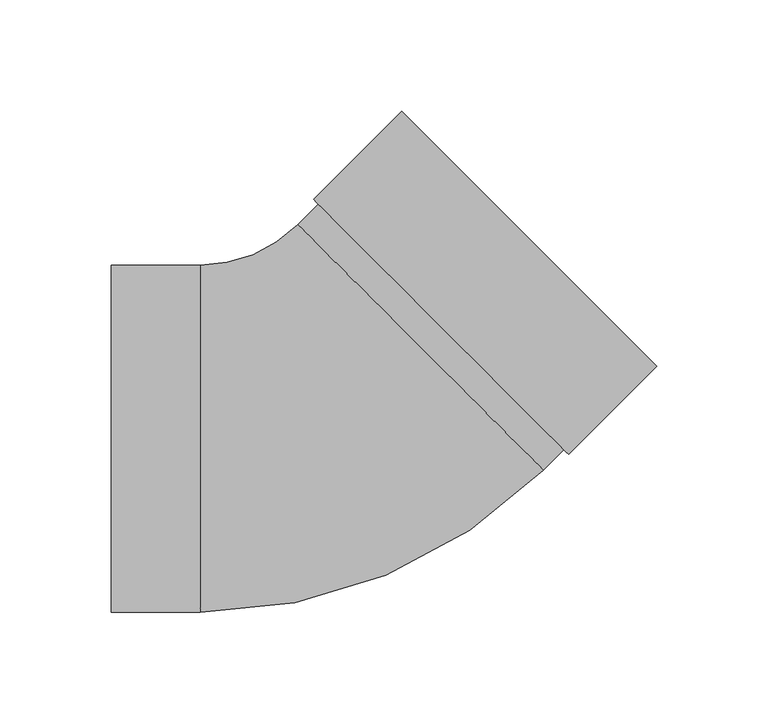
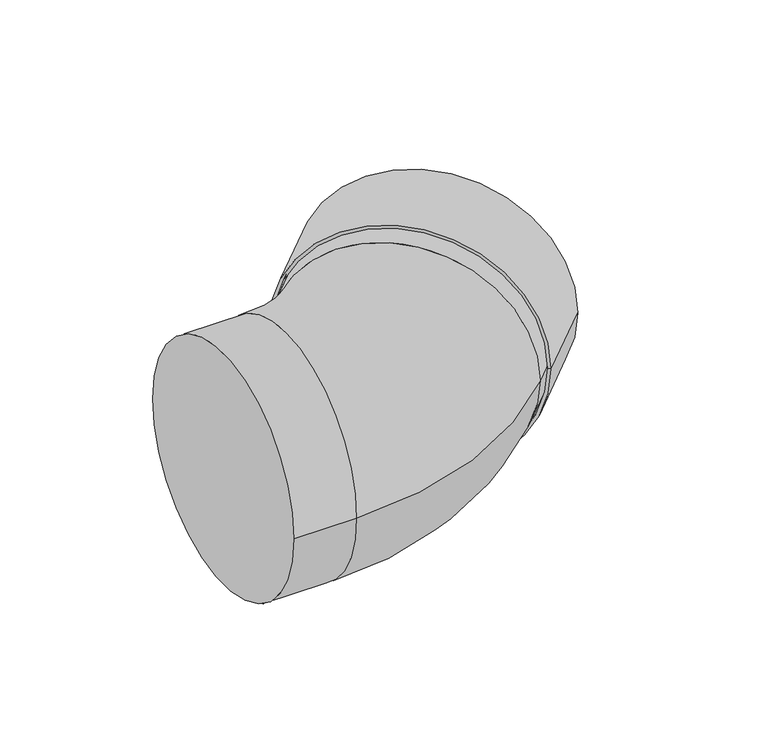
"""IFC4 building model written with IfcOpenShell, lengths in millimetres: duct fitting geometry, NLRS_57_DUF_UN_bend EPS_M&G : ø125 - ø200."""

from ifc_helpers import new_model, si_unit, point, frame, origin, place, context, project, spatial, polyline, circle_curve, ellipse_curve, trimmed, source, transform, mapped, element, save
from ifc_brep_helpers import plane_surface, cylinder_surface, revolved_surface, advanced_brep


def duct_fitting_a3314429(model_context):
    return source(origin(), model_context, "Body", "AdvancedBrep", [
        advanced_brep(
        [(107.4802307, -7.0710678, 0.0), (-7.0710678, 107.4802307, 0.0), (32.5269119, 147.0782105, 0.0), (147.0782105, 32.5269119, 0.0), (106.0660172, -5.6568542, 0.0), (-5.6568542, 106.0660172, 0.0), (125.1579003, 13.4350288, 0.0), (13.4350288, 125.1579003, 0.0), (123.7436867, 14.8492424, 0.0), (14.8492424, 123.7436867, 0.0), (126.5721138, 14.8492424, 0.0), (14.8492424, 126.5721138, 0.0), (16.263456, 125.1579003, 0.0), (125.1579003, 16.263456, 0.0), (145.6639969, 33.9411255, 0.0), (33.9411255, 145.6639969, 0.0)],
        [
            (0, 1, circle_curve(frame((50.2045815, 50.2045815, 0.0), z_axis=(0.7071067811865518, 0.7071067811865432, 0.0), x_axis=(-0.7071067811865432, 0.7071067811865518, 0.0)), 81.0)),
            (1, 2),
            (2, 3, circle_curve(frame((89.8025612, 89.8025612, 0.0), z_axis=(-0.7071067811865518, -0.7071067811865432, 0.0), x_axis=(-0.7071067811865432, 0.7071067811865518, 0.0)), 81.0)),
            (3, 0),
            (1, 0, circle_curve(frame((50.2045815, 50.2045815, 0.0), z_axis=(0.7071067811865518, 0.7071067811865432, 0.0), x_axis=(-0.7071067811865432, 0.7071067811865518, 0.0)), 81.0)),
            (3, 2, circle_curve(frame((89.8025612, 89.8025612, 0.0), z_axis=(-0.7071067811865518, -0.7071067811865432, 0.0), x_axis=(-0.7071067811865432, 0.7071067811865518, 0.0)), 81.0)),
            (4, 5, circle_curve(frame((50.2045815, 50.2045815, 0.0), z_axis=(0.7071067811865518, 0.7071067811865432, 0.0), x_axis=(-0.7071067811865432, 0.7071067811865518, 0.0)), 79.0)),
            (5, 1),
            (0, 4),
            (5, 4, circle_curve(frame((50.2045815, 50.2045815, 0.0), z_axis=(0.7071067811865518, 0.7071067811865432, 0.0), x_axis=(-0.7071067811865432, 0.7071067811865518, 0.0)), 79.0)),
            (6, 7, circle_curve(frame((69.2964646, 69.2964646, 0.0), z_axis=(0.7071067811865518, 0.7071067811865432, 0.0), x_axis=(-0.7071067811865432, 0.7071067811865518, 0.0)), 79.0)),
            (7, 5),
            (4, 6),
            (7, 6, circle_curve(frame((69.2964646, 69.2964646, 0.0), z_axis=(0.7071067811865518, 0.7071067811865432, 0.0), x_axis=(-0.7071067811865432, 0.7071067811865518, 0.0)), 79.0)),
            (8, 9, circle_curve(frame((69.2964646, 69.2964646, 0.0), z_axis=(0.7071067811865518, 0.7071067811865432, 0.0), x_axis=(-0.7071067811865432, 0.7071067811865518, 0.0)), 77.0)),
            (9, 7),
            (6, 8),
            (9, 8, circle_curve(frame((69.2964646, 69.2964646, 0.0), z_axis=(0.7071067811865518, 0.7071067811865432, 0.0), x_axis=(-0.7071067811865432, 0.7071067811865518, 0.0)), 77.0)),
            (10, 11, circle_curve(frame((70.7106781, 70.7106781, 0.0), z_axis=(0.7071067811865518, 0.7071067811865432, 0.0), x_axis=(-0.7071067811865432, 0.7071067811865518, 0.0)), 79.0)),
            (11, 12),
            (12, 13, circle_curve(frame((70.7106781, 70.7106781, 0.0), z_axis=(-0.7071067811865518, -0.7071067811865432, 0.0), x_axis=(-0.7071067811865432, 0.7071067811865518, 0.0)), 77.0)),
            (13, 10),
            (11, 10, circle_curve(frame((70.7106781, 70.7106781, 0.0), z_axis=(0.7071067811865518, 0.7071067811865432, 0.0), x_axis=(-0.7071067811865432, 0.7071067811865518, 0.0)), 79.0)),
            (13, 12, circle_curve(frame((70.7106781, 70.7106781, 0.0), z_axis=(-0.7071067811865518, -0.7071067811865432, 0.0), x_axis=(-0.7071067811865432, 0.7071067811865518, 0.0)), 77.0)),
            (14, 15, circle_curve(frame((89.8025612, 89.8025612, 0.0), z_axis=(0.7071067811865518, 0.7071067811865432, 0.0), x_axis=(-0.7071067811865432, 0.7071067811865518, 0.0)), 79.0)),
            (15, 11),
            (10, 14),
            (15, 14, circle_curve(frame((89.8025612, 89.8025612, 0.0), z_axis=(0.7071067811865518, 0.7071067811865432, 0.0), x_axis=(-0.7071067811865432, 0.7071067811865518, 0.0)), 79.0)),
            (2, 15),
            (14, 3),
            (12, 9),
            (8, 13),
        ],
        [
            cylinder_surface(frame((1466.8930176, 1466.8930176, 0.0), z_axis=(-0.7071067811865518, -0.7071067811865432, 0.0), x_axis=(-0.7071067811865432, 0.7071067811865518, 0.0)), 81.0),
            plane_surface(frame((50.2045815, 50.2045815, 0.0), z_axis=(-0.7071067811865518, -0.7071067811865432, 0.0), x_axis=(-0.7071067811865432, 0.7071067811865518, 0.0))),
            revolved_surface(polyline([(-5.6568542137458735, 106.06601721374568, 0.0), (13.43502888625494, 125.15790031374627, 0.0)]), (1466.8930176, 1466.8930176, 0.0), (-0.7071067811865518, -0.7071067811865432, 0.0)),
            plane_surface(frame((69.2964646, 69.2964646, 0.0), z_axis=(-0.7071067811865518, -0.7071067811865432, 0.0), x_axis=(-0.7071067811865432, 0.7071067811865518, 0.0))),
            plane_surface(frame((70.7106781, 70.7106781, 0.0), z_axis=(0.7071067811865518, 0.7071067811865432, 0.0), x_axis=(-0.7071067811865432, 0.7071067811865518, 0.0))),
            revolved_surface(polyline([(14.849242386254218, 126.57211381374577, 0.0), (33.94112548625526, 145.66399691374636, 0.0)]), (1466.8930176, 1466.8930176, 0.0), (-0.7071067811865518, -0.7071067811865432, 0.0)),
            plane_surface(frame((89.8025612, 89.8025612, 0.0), z_axis=(0.7071067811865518, 0.7071067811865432, 0.0), x_axis=(-0.7071067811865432, 0.7071067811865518, 0.0))),
            revolved_surface(polyline([(14.849242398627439, 123.74368670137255, 0.0), (16.263455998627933, 125.15790030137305, 0.0)]), (1466.8930176, 1466.8930176, 0.0), (-0.7071067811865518, -0.7071067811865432, 0.0)),
        ],
        [
            (0, [[1, 2, 3, 4]]),
            (0, [[5, -4, 6, -2]]),
            (1, [[7, 8, -1, 9]]),
            (1, [[10, -9, -5, -8]]),
            (2, [[11, 12, -7, 13]]),
            (2, [[14, -13, -10, -12]]),
            (3, [[15, 16, -11, 17]]),
            (3, [[18, -17, -14, -16]]),
            (4, [[19, 20, 21, 22]]),
            (4, [[23, -22, 24, -20]]),
            (5, [[25, 26, -19, 27]]),
            (5, [[28, -27, -23, -26]]),
            (6, [[-3, 29, -25, 30]]),
            (6, [[-6, -30, -28, -29]]),
            (7, [[-21, 31, -15, 32]]),
            (7, [[-24, -32, -18, -31]]),
        ],
    ),
        advanced_brep(
        [(-98.0, -78.0, 0.0), (-98.0, 78.0, 0.0), (-58.0, -78.0, 0.0), (-58.0, 78.0, 0.0), (-14.1421356, 96.1665222, 0.0), (96.1665222, -14.1421356, 0.0), (124.4507935, 14.1421356, 0.0), (14.1421356, 124.4507935, 0.0)],
        [
            (0, 1, circle_curve(frame((-98.0, 0.0, 0.0), z_axis=(-1.0, 0.0, 0.0), x_axis=(0.0, 1.0, 0.0)), 78.0)),
            (1, 0, circle_curve(frame((-98.0, 0.0, 0.0), z_axis=(-1.0, 0.0, 0.0), x_axis=(0.0, 1.0, 0.0)), 78.0)),
            (0, 2),
            (2, 3, circle_curve(frame((-58.0, 0.0, 0.0), z_axis=(-1.0, 0.0, 0.0), x_axis=(0.0, 1.0, 0.0)), 78.0)),
            (3, 1),
            (3, 2, circle_curve(frame((-58.0, 0.0, 0.0), z_axis=(-1.0, 0.0, 0.0), x_axis=(0.0, 1.0, 0.0)), 78.0)),
            (4, 3, circle_curve(frame((-58.0, 140.0243866, 0.0), z_axis=(0.0, 0.0, -1.0), x_axis=(0.0, -1.0, 0.0)), 62.0243866)),
            (2, 5, circle_curve(frame((-58.0, 140.0243866, 0.0), z_axis=(0.0, 0.0, 1.0), x_axis=(0.0, -1.0, 0.0)), 218.0243866)),
            (5, 4, circle_curve(frame((41.0121933, 41.0121933, 0.0), z_axis=(-0.7071067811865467, -0.7071067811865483, 0.0), x_axis=(-0.7071067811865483, 0.7071067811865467, 0.0)), 78.0)),
            (4, 5, circle_curve(frame((41.0121933, 41.0121933, 0.0), z_axis=(-0.7071067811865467, -0.7071067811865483, 0.0), x_axis=(-0.7071067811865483, 0.7071067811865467, 0.0)), 78.0)),
            (6, 7, circle_curve(frame((69.2964646, 69.2964646, 0.0), z_axis=(0.707106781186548, 0.707106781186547, 0.0), x_axis=(-0.707106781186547, 0.707106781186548, 0.0)), 78.0)),
            (7, 6, circle_curve(frame((69.2964646, 69.2964646, 0.0), z_axis=(0.707106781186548, 0.707106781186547, 0.0), x_axis=(-0.707106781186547, 0.707106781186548, 0.0)), 78.0)),
            (5, 6),
            (7, 4),
        ],
        [
            plane_surface(frame((-98.0, 0.0, 0.0), z_axis=(-1.0, 0.0, 0.0), x_axis=(0.0, 0.0, 1.0))),
            cylinder_surface(frame((-98.0, 0.0, 0.0), z_axis=(-1.0, 0.0, 0.0), x_axis=(0.0, 1.0, 0.0)), 78.0),
            revolved_surface(trimmed(ellipse_curve(frame((-58.0, 0.0, 0.0), z_axis=(-1.0, 0.0, 0.0), x_axis=(0.0, 1.0, 0.0)), 78.0, 78.0), [point((-58.0, -78.0, 0.0))], [point((-58.0, 78.0, 0.0))], True, "CARTESIAN"), (-58.0, 140.0243866, 0.0), (0.0, 0.0, 1.0)),
            revolved_surface(trimmed(ellipse_curve(frame((-58.0, 0.0, 0.0), z_axis=(-1.0, 0.0, 0.0), x_axis=(0.0, 1.0, 0.0)), 78.0, 78.0), [point((-58.0, 78.0, 0.0))], [point((-58.0, -78.0, 0.0))], True, "CARTESIAN"), (-58.0, 140.0243866, 0.0), (0.0, 0.0, 1.0)),
            plane_surface(frame((69.2964646, 69.2964646, 0.0), z_axis=(0.707106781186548, 0.707106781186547, 0.0), x_axis=(0.0, 0.0, 1.0))),
            cylinder_surface(frame((41.0121933, 41.0121933, 0.0), z_axis=(-0.707106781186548, -0.707106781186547, 0.0), x_axis=(-0.707106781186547, 0.707106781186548, 0.0)), 78.0),
        ],
        [
            (0, [[1, 2]]),
            (1, [[-1, 3, 4, 5]]),
            (1, [[-2, -5, 6, -3]]),
            (2, [[7, -4, 8, 9]]),
            (3, [[-8, -6, -7, 10]]),
            (4, [[11, 12]]),
            (5, [[-9, 13, -12, 14]]),
            (5, [[-10, -14, -11, -13]]),
        ],
    ),
    ])


if __name__ == "__main__":
    model = new_model("IFC4")
    model_context = context("Model", 3, world=origin())
    ifc_project = project(units=[si_unit("LENGTHUNIT", "METRE", prefix="MILLI")], contexts=[model_context])
    site = spatial("IfcSite", under=ifc_project)
    building = spatial("IfcBuilding", under=site)
    placement = place(None, origin())
    duct_fitting_shape = duct_fitting_a3314429(model_context)
    element("IfcDuctFitting", 1, ObjectType="NLRS_57_DUF_UN_bend EPS_M&G : ø125 - ø200", at=placement, inside=building, context=model_context, shape_type="MappedRepresentation", body=[
        mapped(duct_fitting_shape, transform((0.0, 0.0, 0.0), x_axis=(1.0, 0.0, 0.0), y_axis=(0.0, 1.0, 0.0), z_axis=(0.0, 0.0, 1.0))),
    ])
    save(model, "model.ifc")
